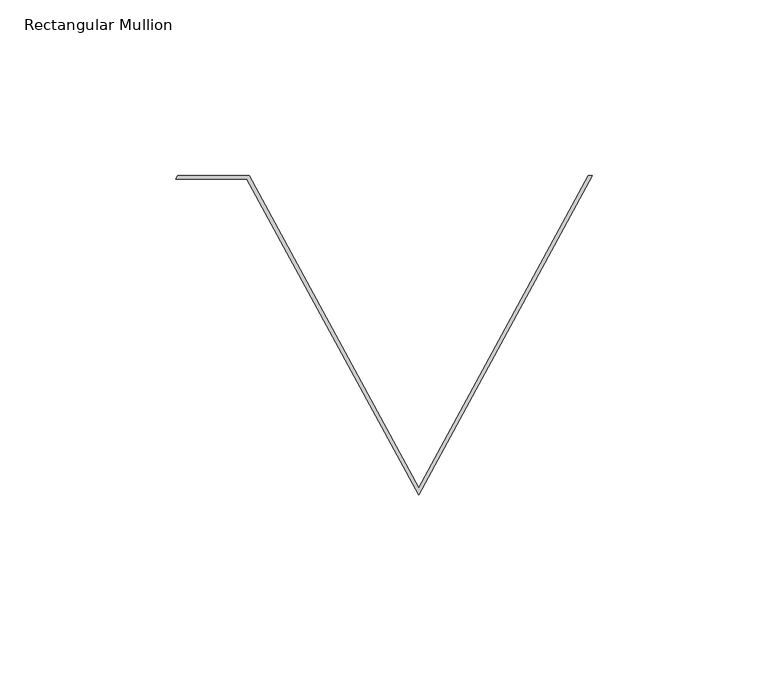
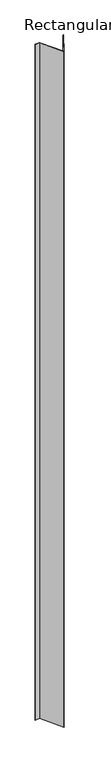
"""IFC4 building model written with IfcOpenShell, lengths in millimetres: member geometry, Rectangular Mullion : CD_NINELINE_Pleat Start Intermediate."""

from ifc_helpers import new_model, si_unit, frame, origin, place, context, project, spatial, polyline, outline, extrude, source, transform, mapped, element, save


def rectangular_mullion_585a1eef(model_context):
    return source(origin(), model_context, "Body", "SweptSolid", [
        extrude(outline(polyline([(0.4089599, 0.0), (20.7310548, 0.0), (68.9999476, -88.9018164), (117.2688403, 0.0), (118.4089687, 0.0), (69.0, -91.0), (20.133987, -1.0), (-0.1339862, -1.0), (0.4089599, 0.0)])), frame((0.0, 0.0, -2947.0), z_axis=(0.0, 0.0, 1.0), x_axis=(1.0, 0.0, 0.0)), (0.0, 0.0, 1.0), 2947.0),
    ])


if __name__ == "__main__":
    model = new_model("IFC4")
    model_context = context("Model", 3, world=origin())
    ifc_project = project(units=[si_unit("LENGTHUNIT", "METRE", prefix="MILLI")], contexts=[model_context])
    site = spatial("IfcSite", under=ifc_project)
    building = spatial("IfcBuilding", under=site)
    placement = place(None, origin())
    rectangular_mullion_shape = rectangular_mullion_585a1eef(model_context)
    element("IfcMember", 1, ObjectType="Rectangular Mullion : CD_NINELINE_Pleat Start Intermediate", at=placement, inside=building, context=model_context, shape_type="MappedRepresentation", body=[
        mapped(rectangular_mullion_shape, transform((0.0, 0.0, 0.0), x_axis=(1.0, 0.0, 0.0), y_axis=(0.0, 1.0, 0.0), z_axis=(0.0, 0.0, 1.0))),
    ])
    save(model, "model.ifc")
